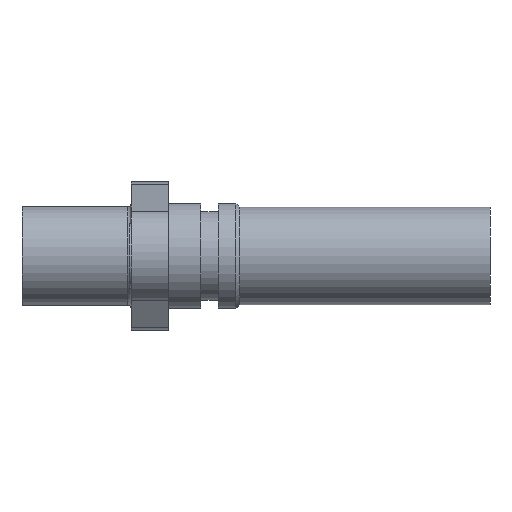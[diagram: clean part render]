
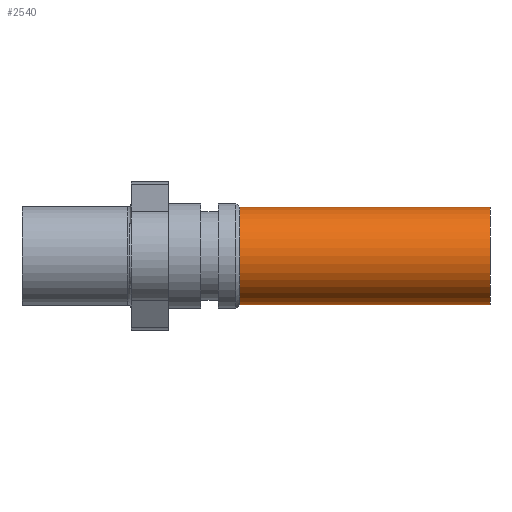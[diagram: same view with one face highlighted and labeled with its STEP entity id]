
A CAD part, left-side view. The second image highlights one B-rep face of the part: STEP entity #2540.
In plain terms, the highlighted cylindrical face has radius 6.85 mm (diameter 13.7 mm), a partial arc.
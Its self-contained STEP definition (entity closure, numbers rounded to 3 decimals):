
#7 = CARTESIAN_POINT ( 'NONE',  ( 0., 0., 6.85 ) ) ;
#11 = DIRECTION ( 'NONE',  ( 0., -1., 0. ) ) ;
#70 = CIRCLE ( 'NONE', #2141, 6.85 ) ;
#117 = FACE_OUTER_BOUND ( 'NONE', #1698, .T. ) ;
#130 = VERTEX_POINT ( 'NONE', #566 ) ;
#318 = LINE ( 'NONE', #7, #319 ) ;
#319 = VECTOR ( 'NONE', #11, 1000. ) ;
#409 = CARTESIAN_POINT ( 'NONE',  ( 0., 35., 6.85 ) ) ;
#525 = EDGE_CURVE ( 'NONE', #1610, #2075, #318, .T. ) ;
#553 = EDGE_CURVE ( 'NONE', #130, #921, #723, .T. ) ;
#566 = CARTESIAN_POINT ( 'NONE',  ( 0., 35., -6.85 ) ) ;
#723 = LINE ( 'NONE', #2520, #2134 ) ;
#853 = ORIENTED_EDGE ( 'NONE', *, *, #553, .T. ) ;
#854 = AXIS2_PLACEMENT_3D ( 'NONE', #2348, #2319, #2214 ) ;
#900 = DIRECTION ( 'NONE',  ( 0., 0., -1. ) ) ;
#905 = DIRECTION ( 'NONE',  ( 0., -1., 0. ) ) ;
#921 = VERTEX_POINT ( 'NONE', #1443 ) ;
#938 = CARTESIAN_POINT ( 'NONE',  ( 0., 0., 0. ) ) ;
#1148 = CYLINDRICAL_SURFACE ( 'NONE', #1588, 6.85 ) ;
#1159 = ORIENTED_EDGE ( 'NONE', *, *, #525, .F. ) ;
#1399 = ORIENTED_EDGE ( 'NONE', *, *, #1456, .F. ) ;
#1421 = EDGE_CURVE ( 'NONE', #1610, #130, #1999, .T. ) ;
#1443 = CARTESIAN_POINT ( 'NONE',  ( 0., 0., -6.85 ) ) ;
#1456 = EDGE_CURVE ( 'NONE', #2075, #921, #70, .T. ) ;
#1588 = AXIS2_PLACEMENT_3D ( 'NONE', #938, #905, #900 ) ;
#1609 = DIRECTION ( 'NONE',  ( 0., 0., -1. ) ) ;
#1610 = VERTEX_POINT ( 'NONE', #409 ) ;
#1645 = CARTESIAN_POINT ( 'NONE',  ( 0., 0., 0. ) ) ;
#1664 = CARTESIAN_POINT ( 'NONE',  ( 0., 0., 6.85 ) ) ;
#1698 = EDGE_LOOP ( 'NONE', ( #1159, #2250, #853, #1399 ) ) ;
#1843 = DIRECTION ( 'NONE',  ( 0., -1., 0. ) ) ;
#1999 = CIRCLE ( 'NONE', #854, 6.85 ) ;
#2075 = VERTEX_POINT ( 'NONE', #1664 ) ;
#2134 = VECTOR ( 'NONE', #2481, 1000. ) ;
#2141 = AXIS2_PLACEMENT_3D ( 'NONE', #1645, #1843, #1609 ) ;
#2214 = DIRECTION ( 'NONE',  ( 0., 0., -1. ) ) ;
#2250 = ORIENTED_EDGE ( 'NONE', *, *, #1421, .T. ) ;
#2319 = DIRECTION ( 'NONE',  ( 0., -1., 0. ) ) ;
#2348 = CARTESIAN_POINT ( 'NONE',  ( 0., 35., 0. ) ) ;
#2481 = DIRECTION ( 'NONE',  ( 0., -1., 0. ) ) ;
#2520 = CARTESIAN_POINT ( 'NONE',  ( 0., 0., -6.85 ) ) ;
#2540 = ADVANCED_FACE ( 'NONE', ( #117 ), #1148, .T. ) ;
